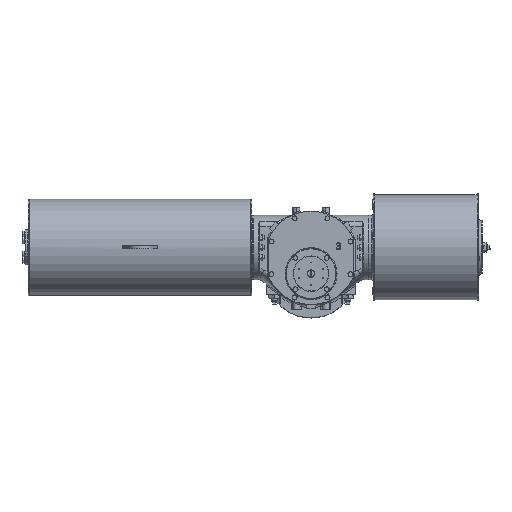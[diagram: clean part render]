
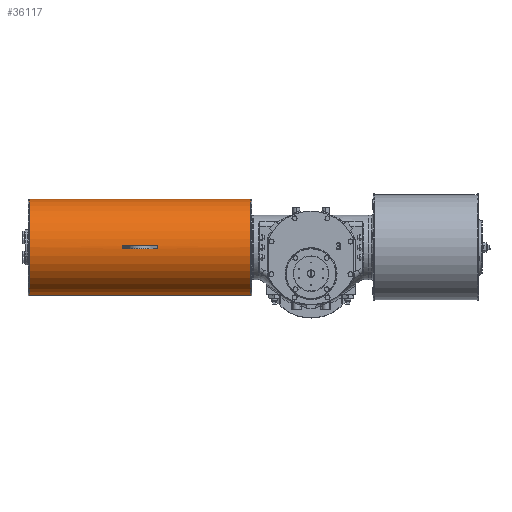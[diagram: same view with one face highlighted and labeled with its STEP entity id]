
A CAD part, top view. The second image highlights one B-rep face of the part: STEP entity #36117.
In plain terms, the highlighted cylindrical face has radius 162.5 mm (diameter 325 mm), a partial arc.
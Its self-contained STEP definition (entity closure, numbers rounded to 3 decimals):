
#1129 = CARTESIAN_POINT ( 'NONE',  ( -519.5, 35.5, 74.5 ) ) ;
#1283 = VERTEX_POINT ( 'NONE', #51287 ) ;
#2491 = CARTESIAN_POINT ( 'NONE',  ( -205., 35.5, 74.5 ) ) ;
#2506 = EDGE_CURVE ( 'NONE', #61606, #1283, #5639, .T. ) ;
#2875 = DIRECTION ( 'NONE',  ( 0., -1., 0. ) ) ;
#3256 = EDGE_CURVE ( 'NONE', #40012, #11800, #42576, .T. ) ;
#4115 = CARTESIAN_POINT ( 'NONE',  ( -208., 35.5, 74.5 ) ) ;
#4181 = CARTESIAN_POINT ( 'NONE',  ( -208., 30.5, 236.923 ) ) ;
#5639 = CIRCLE ( 'NONE', #69961, 162.5 ) ;
#6607 = VECTOR ( 'NONE', #14322, 1000. ) ;
#8674 = DIRECTION ( 'NONE',  ( -1., 0., 0. ) ) ;
#9051 = EDGE_LOOP ( 'NONE', ( #51651, #68280, #40899, #14166, #40883, #40104 ) ) ;
#9280 = CARTESIAN_POINT ( 'NONE',  ( -205., -127., 74.5 ) ) ;
#9470 = EDGE_CURVE ( 'NONE', #37372, #48608, #22965, .T. ) ;
#11461 = FACE_BOUND ( 'NONE', #9051, .T. ) ;
#11800 = VERTEX_POINT ( 'NONE', #12003 ) ;
#12003 = CARTESIAN_POINT ( 'NONE',  ( -639.5, 40.5, 236.923 ) ) ;
#12427 = VECTOR ( 'NONE', #68304, 1000. ) ;
#12490 = VERTEX_POINT ( 'NONE', #21028 ) ;
#13555 = DIRECTION ( 'NONE',  ( -1., 0., 0. ) ) ;
#14166 = ORIENTED_EDGE ( 'NONE', *, *, #56235, .T. ) ;
#14322 = DIRECTION ( 'NONE',  ( -1., 0., 0. ) ) ;
#14509 = CARTESIAN_POINT ( 'NONE',  ( -208., -127., 74.5 ) ) ;
#16449 = AXIS2_PLACEMENT_3D ( 'NONE', #38222, #67281, #24037 ) ;
#17779 = CARTESIAN_POINT ( 'NONE',  ( -519.5, 35.5, 74.5 ) ) ;
#19484 = ORIENTED_EDGE ( 'NONE', *, *, #27029, .T. ) ;
#20694 = CARTESIAN_POINT ( 'NONE',  ( -954., 198., 74.5 ) ) ;
#20938 = ORIENTED_EDGE ( 'NONE', *, *, #59894, .F. ) ;
#21028 = CARTESIAN_POINT ( 'NONE',  ( -519.5, 35.5, 237. ) ) ;
#22730 = DIRECTION ( 'NONE',  ( 0., 1., 0. ) ) ;
#22965 = CIRCLE ( 'NONE', #31644, 162.5 ) ;
#23136 = VERTEX_POINT ( 'NONE', #60734 ) ;
#24037 = DIRECTION ( 'NONE',  ( 0., 1., 0. ) ) ;
#26160 = VERTEX_POINT ( 'NONE', #30858 ) ;
#26568 = CARTESIAN_POINT ( 'NONE',  ( -954., 35.5, 74.5 ) ) ;
#27029 = EDGE_CURVE ( 'NONE', #1283, #37372, #44093, .T. ) ;
#27708 = DIRECTION ( 'NONE',  ( 0., -1., 0. ) ) ;
#28452 = EDGE_CURVE ( 'NONE', #37122, #26160, #42388, .T. ) ;
#29576 = VECTOR ( 'NONE', #40549, 1000. ) ;
#30858 = CARTESIAN_POINT ( 'NONE',  ( -639.5, 35.5, 237. ) ) ;
#31644 = AXIS2_PLACEMENT_3D ( 'NONE', #26568, #43219, #66855 ) ;
#31777 = EDGE_CURVE ( 'NONE', #26160, #11800, #49021, .T. ) ;
#32926 = AXIS2_PLACEMENT_3D ( 'NONE', #39754, #52498, #22730 ) ;
#33123 = EDGE_LOOP ( 'NONE', ( #42101, #19484, #74473, #20938 ) ) ;
#33504 = FACE_OUTER_BOUND ( 'NONE', #33123, .T. ) ;
#35926 = CARTESIAN_POINT ( 'NONE',  ( -639.5, 30.5, 236.923 ) ) ;
#36117 = ADVANCED_FACE ( 'NONE', ( #11461, #33504 ), #40863, .T. ) ;
#36982 = DIRECTION ( 'NONE',  ( 0., -1., 0. ) ) ;
#37122 = VERTEX_POINT ( 'NONE', #35926 ) ;
#37372 = VERTEX_POINT ( 'NONE', #20694 ) ;
#38222 = CARTESIAN_POINT ( 'NONE',  ( -639.5, 35.5, 74.5 ) ) ;
#39754 = CARTESIAN_POINT ( 'NONE',  ( -639.5, 35.5, 74.5 ) ) ;
#39774 = LINE ( 'NONE', #4181, #29576 ) ;
#40012 = VERTEX_POINT ( 'NONE', #40272 ) ;
#40104 = ORIENTED_EDGE ( 'NONE', *, *, #31777, .T. ) ;
#40272 = CARTESIAN_POINT ( 'NONE',  ( -519.5, 40.5, 236.923 ) ) ;
#40549 = DIRECTION ( 'NONE',  ( -1., 0., 0. ) ) ;
#40863 = CYLINDRICAL_SURFACE ( 'NONE', #44942, 162.5 ) ;
#40883 = ORIENTED_EDGE ( 'NONE', *, *, #28452, .T. ) ;
#40899 = ORIENTED_EDGE ( 'NONE', *, *, #67285, .T. ) ;
#41780 = DIRECTION ( 'NONE',  ( 0., -1., 0. ) ) ;
#42101 = ORIENTED_EDGE ( 'NONE', *, *, #2506, .T. ) ;
#42388 = CIRCLE ( 'NONE', #16449, 162.5 ) ;
#42576 = LINE ( 'NONE', #60368, #6607 ) ;
#43219 = DIRECTION ( 'NONE',  ( 1., 0., 0. ) ) ;
#43456 = AXIS2_PLACEMENT_3D ( 'NONE', #17779, #60196, #36982 ) ;
#44093 = LINE ( 'NONE', #67742, #65740 ) ;
#44636 = LINE ( 'NONE', #14509, #12427 ) ;
#44942 = AXIS2_PLACEMENT_3D ( 'NONE', #4115, #64474, #27708 ) ;
#45935 = CIRCLE ( 'NONE', #43456, 162.5 ) ;
#48608 = VERTEX_POINT ( 'NONE', #69979 ) ;
#49021 = CIRCLE ( 'NONE', #32926, 162.5 ) ;
#51287 = CARTESIAN_POINT ( 'NONE',  ( -205., 198., 74.5 ) ) ;
#51651 = ORIENTED_EDGE ( 'NONE', *, *, #3256, .F. ) ;
#52498 = DIRECTION ( 'NONE',  ( -1., 0., 0. ) ) ;
#56010 = EDGE_CURVE ( 'NONE', #40012, #12490, #57957, .T. ) ;
#56235 = EDGE_CURVE ( 'NONE', #23136, #37122, #39774, .T. ) ;
#56720 = AXIS2_PLACEMENT_3D ( 'NONE', #1129, #71963, #41780 ) ;
#57957 = CIRCLE ( 'NONE', #56720, 162.5 ) ;
#59894 = EDGE_CURVE ( 'NONE', #61606, #48608, #44636, .T. ) ;
#60196 = DIRECTION ( 'NONE',  ( 1., 0., 0. ) ) ;
#60368 = CARTESIAN_POINT ( 'NONE',  ( -208., 40.5, 236.923 ) ) ;
#60734 = CARTESIAN_POINT ( 'NONE',  ( -519.5, 30.5, 236.923 ) ) ;
#61606 = VERTEX_POINT ( 'NONE', #9280 ) ;
#64474 = DIRECTION ( 'NONE',  ( -1., 0., 0. ) ) ;
#65740 = VECTOR ( 'NONE', #13555, 1000. ) ;
#66855 = DIRECTION ( 'NONE',  ( 0., -1., 0. ) ) ;
#67281 = DIRECTION ( 'NONE',  ( -1., 0., 0. ) ) ;
#67285 = EDGE_CURVE ( 'NONE', #12490, #23136, #45935, .T. ) ;
#67742 = CARTESIAN_POINT ( 'NONE',  ( -208., 198., 74.5 ) ) ;
#68280 = ORIENTED_EDGE ( 'NONE', *, *, #56010, .T. ) ;
#68304 = DIRECTION ( 'NONE',  ( -1., 0., 0. ) ) ;
#69961 = AXIS2_PLACEMENT_3D ( 'NONE', #2491, #8674, #2875 ) ;
#69979 = CARTESIAN_POINT ( 'NONE',  ( -954., -127., 74.5 ) ) ;
#71963 = DIRECTION ( 'NONE',  ( 1., 0., 0. ) ) ;
#74473 = ORIENTED_EDGE ( 'NONE', *, *, #9470, .T. ) ;
